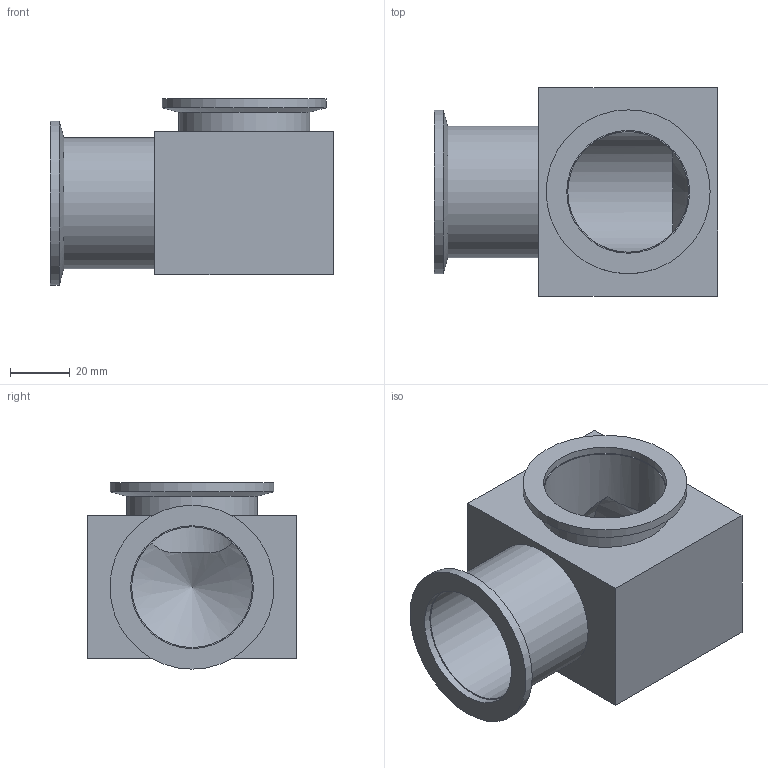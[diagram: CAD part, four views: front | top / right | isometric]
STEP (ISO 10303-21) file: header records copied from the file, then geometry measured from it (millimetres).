
FILE_DESCRIPTION( ( 'Unknown' ), '1' );
FILE_NAME( 'X:/Daten ( aktueller Bestand )/Projekte und Zeichnungen/Solid Edge/STP/STP-Dateien/KF/1036P.stp', 'Unknown', ( 'Unknown' ), ( 'Unknown' ), 'PSStep 14.0', 'Unknown', ' ' );
FILE_SCHEMA( ( 'AUTOMOTIVE_DESIGN { 1 0 10303 214 1 1 1 1 }' ) );
Length unit declared in the file: millimetre
Products named in the file (1): 1
Bounding box: 95 x 70 x 62.5 mm (x, y, z)
Volume: 146071.3 mm3; surface area: 40894 mm2
Topology: 1 solids, 1 shells, 23 faces, 50 edges, 32 vertices
Faces by surface type: plane 10, cylinder 8, cone 5
Full cylindrical faces by diameter (mm): 40.5 x2, 41.2 x2, 44 x2, 55 x2
Entity records: 786 total; most frequent: CARTESIAN_POINT 131, DIRECTION 100, ORIENTED_EDGE 70, AXIS2_PLACEMENT_3D 44, EDGE_LOOP 39, EDGE_CURVE 35, FACE_OUTER_BOUND 31, VERTEX_POINT 29
